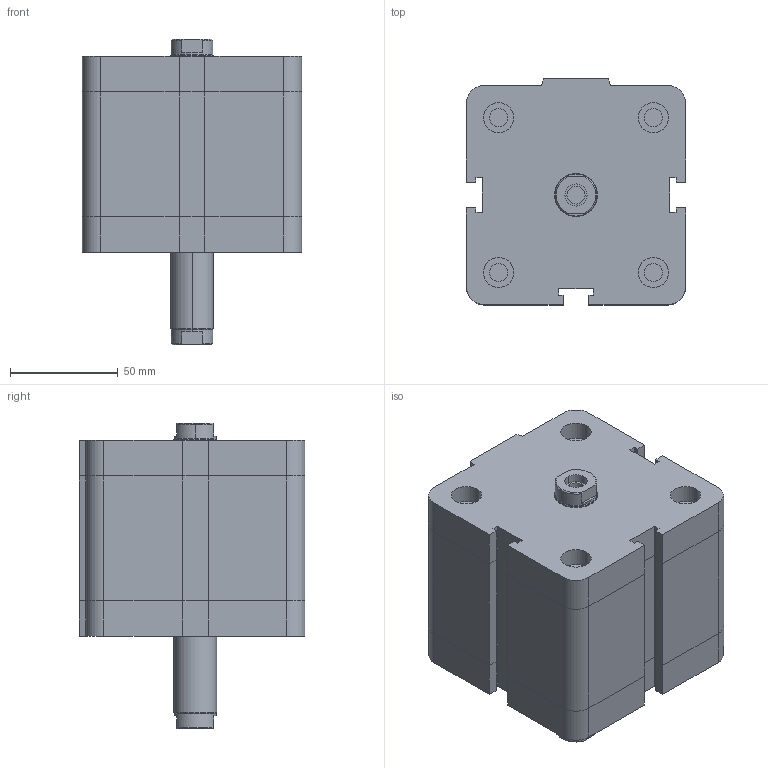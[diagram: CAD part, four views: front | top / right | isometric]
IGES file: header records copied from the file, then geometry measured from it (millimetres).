
Global section: file name: No Iges File Name specified; native system: Autodesk Inventor 2009; preprocessor: AutoDesk Inventor Iges Exporter R2009; author: maffial1; date: 20090420.200433; units: millimetre
Bounding box: 102 x 105 x 142 mm (x, y, z)
Volume: 917233.8 mm3; surface area: 84888.9 mm2
Topology: 2 solids, 2 shells, 202 faces, 450 edges, 274 vertices
Faces by surface type: plane 114, bspline 42, revolution 20, cylinder 18, cone 8
